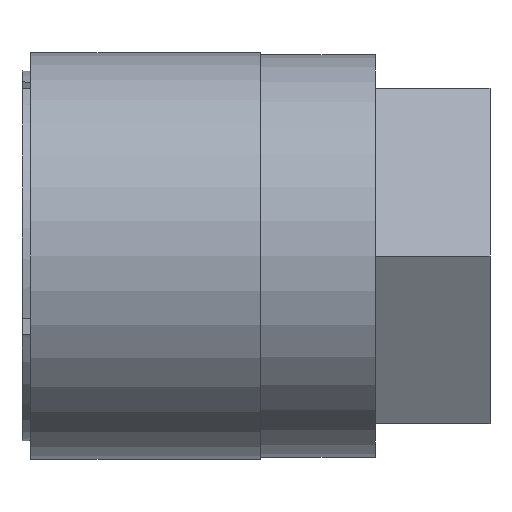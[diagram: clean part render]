
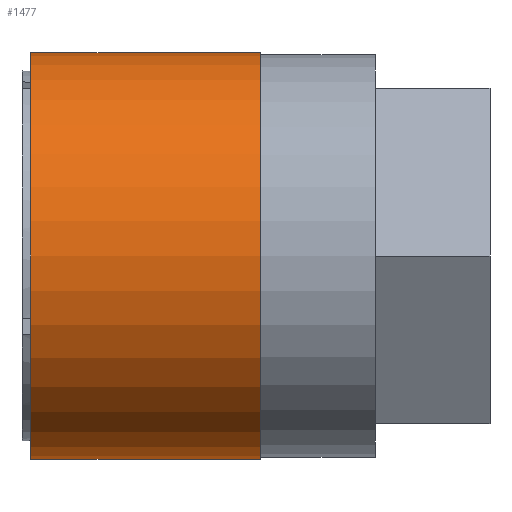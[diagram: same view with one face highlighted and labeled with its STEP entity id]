
A CAD part, front view. The second image highlights one B-rep face of the part: STEP entity #1477.
In plain terms, the highlighted cylindrical face has radius 11.5 mm (diameter 23 mm), a partial arc.
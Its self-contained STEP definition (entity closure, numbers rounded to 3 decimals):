
#5 = AXIS2_PLACEMENT_3D ( 'NONE', #640, #645, #694 ) ;
#70 = FACE_OUTER_BOUND ( 'NONE', #324, .T. ) ;
#78 = CYLINDRICAL_SURFACE ( 'NONE', #5, 11.5 ) ;
#315 = ORIENTED_EDGE ( 'NONE', *, *, #432, .F. ) ;
#324 = EDGE_LOOP ( 'NONE', ( #315, #391, #390, #389 ) ) ;
#389 = ORIENTED_EDGE ( 'NONE', *, *, #440, .F. ) ;
#390 = ORIENTED_EDGE ( 'NONE', *, *, #449, .T. ) ;
#391 = ORIENTED_EDGE ( 'NONE', *, *, #475, .T. ) ;
#432 = EDGE_CURVE ( 'NONE', #1051, #1053, #1336, .T. ) ;
#440 = EDGE_CURVE ( 'NONE', #1053, #1087, #1352, .T. ) ;
#449 = EDGE_CURVE ( 'NONE', #1047, #1087, #1359, .T. ) ;
#475 = EDGE_CURVE ( 'NONE', #1051, #1047, #1407, .T. ) ;
#640 = CARTESIAN_POINT ( 'NONE',  ( 0., 0., 0. ) ) ;
#645 = DIRECTION ( 'NONE',  ( -1., 0., 0. ) ) ;
#694 = DIRECTION ( 'NONE',  ( 0., 0., 1. ) ) ;
#724 = CARTESIAN_POINT ( 'NONE',  ( 13.5, 0., 11.5 ) ) ;
#752 = DIRECTION ( 'NONE',  ( 0., 0., 1. ) ) ;
#753 = DIRECTION ( 'NONE',  ( -1., 0., 0. ) ) ;
#760 = CARTESIAN_POINT ( 'NONE',  ( 13.5, 0., 0. ) ) ;
#816 = DIRECTION ( 'NONE',  ( -1., 0., 0. ) ) ;
#825 = CARTESIAN_POINT ( 'NONE',  ( 0., 0., 11.5 ) ) ;
#839 = DIRECTION ( 'NONE',  ( 0., 0., 1. ) ) ;
#840 = DIRECTION ( 'NONE',  ( -1., 0., 0. ) ) ;
#842 = CARTESIAN_POINT ( 'NONE',  ( 0.5, 0., 0. ) ) ;
#864 = DIRECTION ( 'NONE',  ( -1., 0., 0. ) ) ;
#865 = CARTESIAN_POINT ( 'NONE',  ( 0., 0., -11.5 ) ) ;
#1047 = VERTEX_POINT ( 'NONE', #724 ) ;
#1051 = VERTEX_POINT ( 'NONE', #1590 ) ;
#1053 = VERTEX_POINT ( 'NONE', #1559 ) ;
#1087 = VERTEX_POINT ( 'NONE', #1614 ) ;
#1327 = VECTOR ( 'NONE', #864, 1000. ) ;
#1336 = LINE ( 'NONE', #865, #1327 ) ;
#1352 = CIRCLE ( 'NONE', #1671, 11.5 ) ;
#1359 = LINE ( 'NONE', #825, #1361 ) ;
#1361 = VECTOR ( 'NONE', #816, 1000. ) ;
#1407 = CIRCLE ( 'NONE', #1659, 11.5 ) ;
#1477 = ADVANCED_FACE ( 'NONE', ( #70 ), #78, .T. ) ;
#1559 = CARTESIAN_POINT ( 'NONE',  ( 0.5, 0., -11.5 ) ) ;
#1590 = CARTESIAN_POINT ( 'NONE',  ( 13.5, 0., -11.5 ) ) ;
#1614 = CARTESIAN_POINT ( 'NONE',  ( 0.5, 0., 11.5 ) ) ;
#1659 = AXIS2_PLACEMENT_3D ( 'NONE', #760, #753, #752 ) ;
#1671 = AXIS2_PLACEMENT_3D ( 'NONE', #842, #840, #839 ) ;
